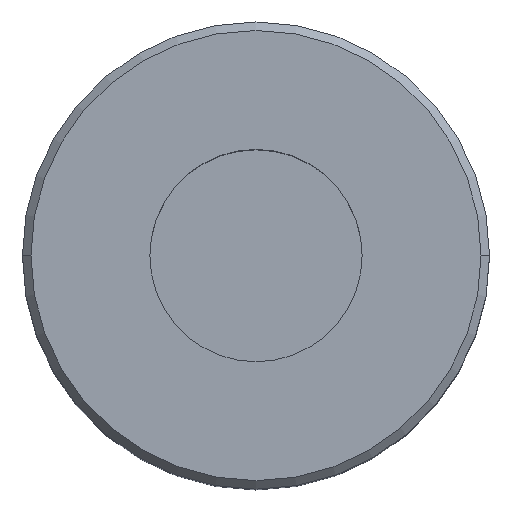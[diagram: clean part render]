
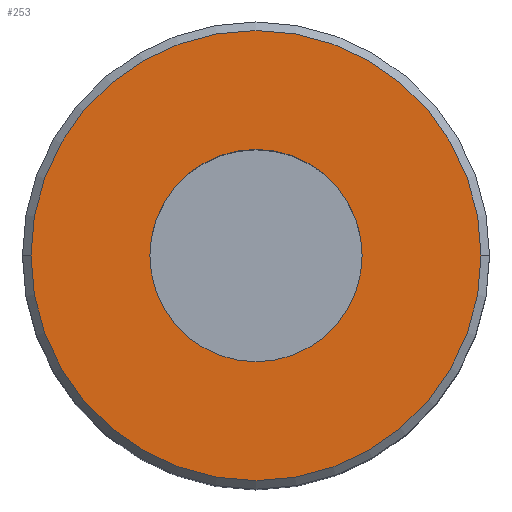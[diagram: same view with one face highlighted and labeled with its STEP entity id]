
A CAD part, top view. The second image highlights one B-rep face of the part: STEP entity #253.
In plain terms, the highlighted planar face has unit normal (0, 0, 1).
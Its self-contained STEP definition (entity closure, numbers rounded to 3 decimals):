
#26=CARTESIAN_POINT('',(0.,0.,
58.));
#27=DIRECTION('',(0.,0.,1.));
#28=DIRECTION('',(-1.,0.,0.));
#29=AXIS2_PLACEMENT_3D('',#26,#27,#28);
#31=CARTESIAN_POINT('',(0.,0.,
58.));
#32=DIRECTION('',(0.,0.,1.));
#33=DIRECTION('',(1.,0.,0.));
#34=AXIS2_PLACEMENT_3D('',#31,#32,#33);
#36=CARTESIAN_POINT('',(0.,0.,58.));
#37=DIRECTION('',(0.,0.,-1.));
#38=DIRECTION('',(-1.,0.,0.));
#39=AXIS2_PLACEMENT_3D('',#36,#37,#38);
#41=CARTESIAN_POINT('',(0.,0.,58.));
#42=DIRECTION('',(0.,0.,-1.));
#43=DIRECTION('',(1.,0.,0.));
#44=AXIS2_PLACEMENT_3D('',#41,#42,#43);
#161=CARTESIAN_POINT('',(26.5,0.,58.));
#162=CARTESIAN_POINT('',(-26.5,0.,58.));
#163=VERTEX_POINT('',#161);
#164=VERTEX_POINT('',#162);
#165=CARTESIAN_POINT('',(-12.5,0.,58.));
#166=CARTESIAN_POINT('',(12.5,0.,58.));
#167=VERTEX_POINT('',#165);
#168=VERTEX_POINT('',#166);
#237=CARTESIAN_POINT('',(0.,0.,58.));
#238=DIRECTION('',(0.,0.,1.));
#239=DIRECTION('',(1.,0.,0.));
#240=AXIS2_PLACEMENT_3D('',#237,#238,#239);
#241=PLANE('',#240);
#243=ORIENTED_EDGE('',*,*,#242,.F.);
#244=ORIENTED_EDGE('',*,*,#227,.F.);
#245=EDGE_LOOP('',(#243,#244));
#246=FACE_OUTER_BOUND('',#245,.F.);
#248=ORIENTED_EDGE('',*,*,#247,.F.);
#250=ORIENTED_EDGE('',*,*,#249,.F.);
#251=EDGE_LOOP('',(#248,#250));
#252=FACE_BOUND('',#251,.F.);
#30=CIRCLE('',#29,26.5);
#35=CIRCLE('',#34,26.5);
#40=CIRCLE('',#39,12.5);
#45=CIRCLE('',#44,12.5);
#227=EDGE_CURVE('',#163,#164,#35,.T.);
#242=EDGE_CURVE('',#164,#163,#30,.T.);
#247=EDGE_CURVE('',#167,#168,#40,.T.);
#249=EDGE_CURVE('',#168,#167,#45,.T.);
#253=ADVANCED_FACE('',(#246,#252),#241,.T.);
